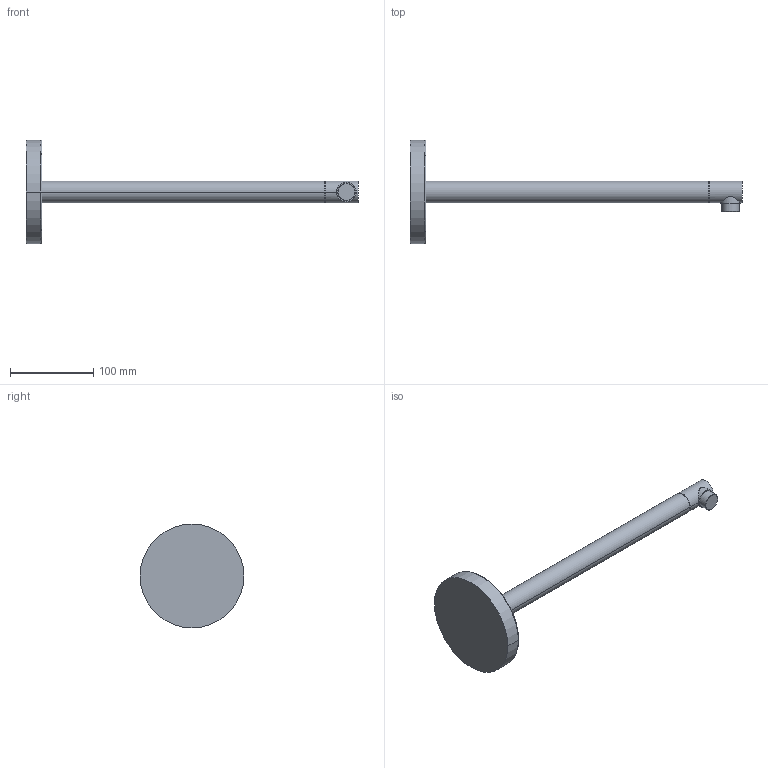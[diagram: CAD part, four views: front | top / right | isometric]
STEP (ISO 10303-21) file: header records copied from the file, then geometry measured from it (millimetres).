
FILE_DESCRIPTION((''),'2;1');
FILE_NAME('26_000_811_XXX','2012-01-13T',('hpf'),(''),'PRO/ENGINEER BY PARAMETRIC TECHNOLOGY CORPORATION, 2011080','PRO/ENGINEER BY PARAMETRIC TECHNOLOGY CORPORATION, 2011080','');
FILE_SCHEMA(('AUTOMOTIVE_DESIGN_CC2 { 1 2 10303 214 -1 1 5 2 }'));
Length unit declared in the file: millimetre
Products named in the file (1): 26_000_811_XXX
Bounding box: 400 x 125 x 125 mm (x, y, z)
Volume: 435188 mm3; surface area: 63693.3 mm2
Topology: 1 solids, 1 shells, 23 faces, 45 edges, 28 vertices
Faces by surface type: cylinder 12, plane 7, torus 2, cone 2
Entity records: 686 total; most frequent: CARTESIAN_POINT 134, DIRECTION 117, ORIENTED_EDGE 90, AXIS2_PLACEMENT_3D 51, EDGE_CURVE 45, COLOUR_RGB 39, VERTEX_POINT 28, CIRCLE 28
